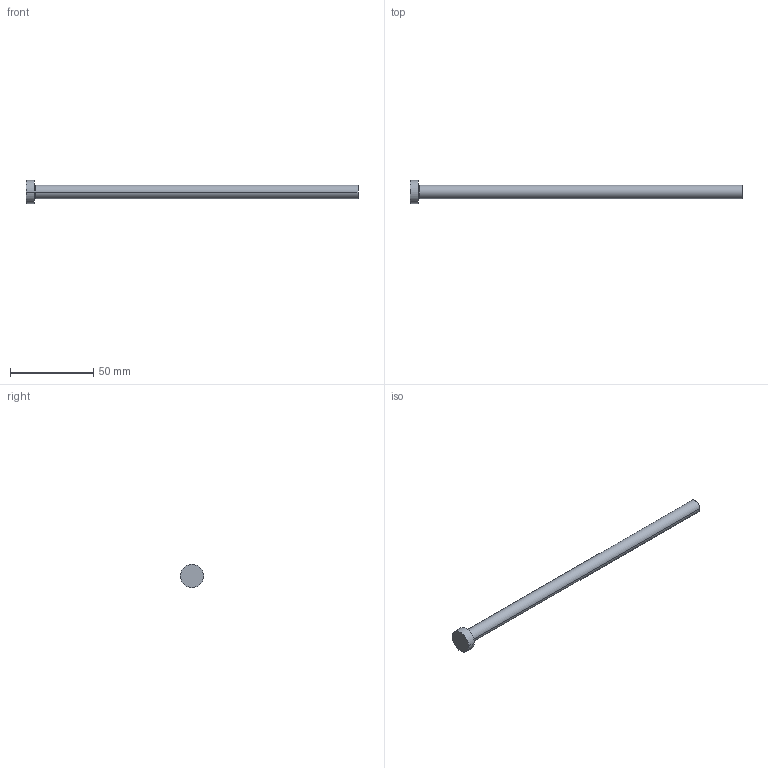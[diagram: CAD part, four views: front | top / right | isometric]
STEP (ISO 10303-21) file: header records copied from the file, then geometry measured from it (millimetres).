
FILE_DESCRIPTION (( 'STEP AP214' ), '1' );
FILE_NAME ('A-8x200.STEP', '2020-05-29T15:53:47', ( 'August' ), ( '' ), 'SwSTEP 2.0', 'SolidWorks 2018', '' );
FILE_SCHEMA (( 'AUTOMOTIVE_DESIGN' ));
Length unit declared in the file: millimetre
Products named in the file (1): A-8x200
Bounding box: 200 x 14 x 14 mm (x, y, z)
Volume: 10572.8 mm3; surface area: 5423.4 mm2
Topology: 1 solids, 1 shells, 9 faces, 16 edges, 10 vertices
Faces by surface type: cylinder 4, plane 3, torus 2
Entity records: 260 total; most frequent: DIRECTION 48, CARTESIAN_POINT 36, ORIENTED_EDGE 32, AXIS2_PLACEMENT_3D 22, EDGE_CURVE 16, CIRCLE 12, VERTEX_POINT 10, EDGE_LOOP 10
